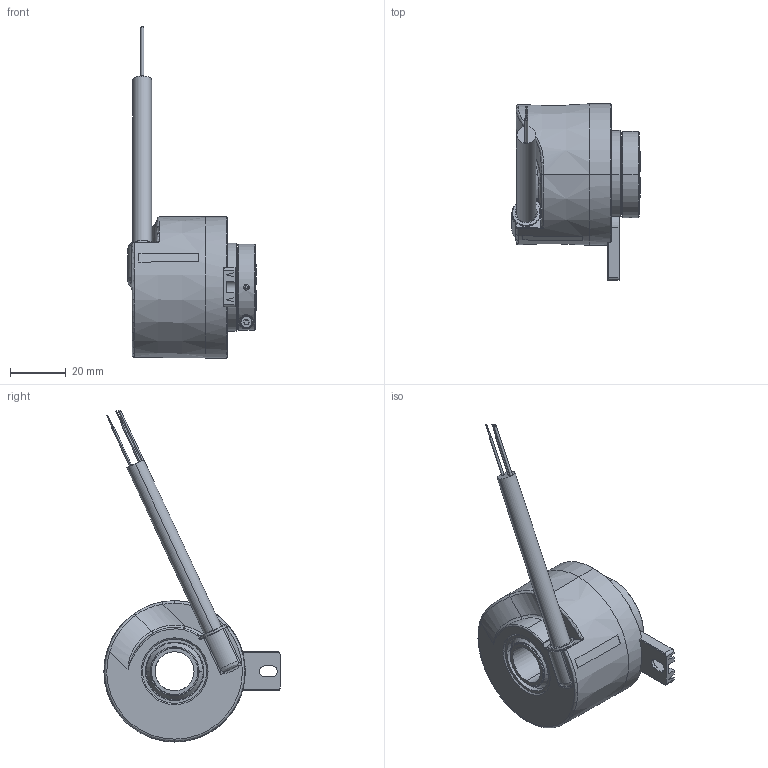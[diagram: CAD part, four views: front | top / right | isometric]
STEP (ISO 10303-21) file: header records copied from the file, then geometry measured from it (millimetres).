
FILE_DESCRIPTION (( 'STEP AP203' ), '1' );
FILE_NAME ('8.5020.2AXE.XXXX.STEP', '2017-04-05T11:36:17', ( '' ), ( '' ), 'SwSTEP 2.0', 'SolidWorks 2017', '' );
FILE_SCHEMA (( 'CONFIG_CONTROL_DESIGN' ));
Length unit declared in the file: millimetre
Products named in the file (1): 8.5020.2AXE.XXXX
Bounding box: 46.3 x 63.3 x 119.26 mm (x, y, z)
Volume: 38380.1 mm3; surface area: 37054.9 mm2
Topology: 19 solids, 20 shells, 1077 faces, 2684 edges, 1628 vertices
Faces by surface type: bspline 287, cylinder 274, plane 264, cone 113, torus 99, sphere 40
Entity records: 41667 total; most frequent: CARTESIAN_POINT 18434, ORIENTED_EDGE 5138, DIRECTION 4450, EDGE_CURVE 2569, AXIS2_PLACEMENT_3D 1845, VERTEX_POINT 1574, EDGE_LOOP 1187, FACE_OUTER_BOUND 1077
